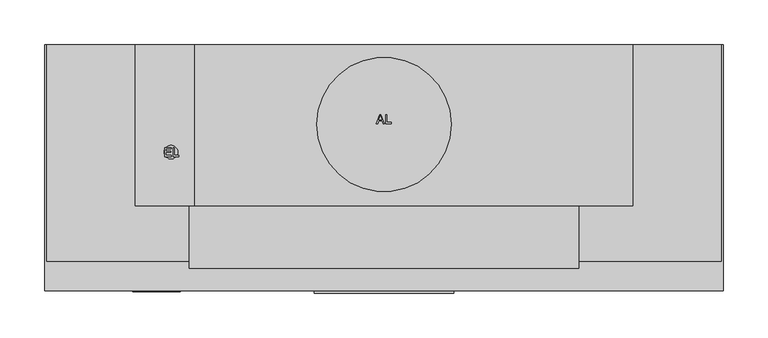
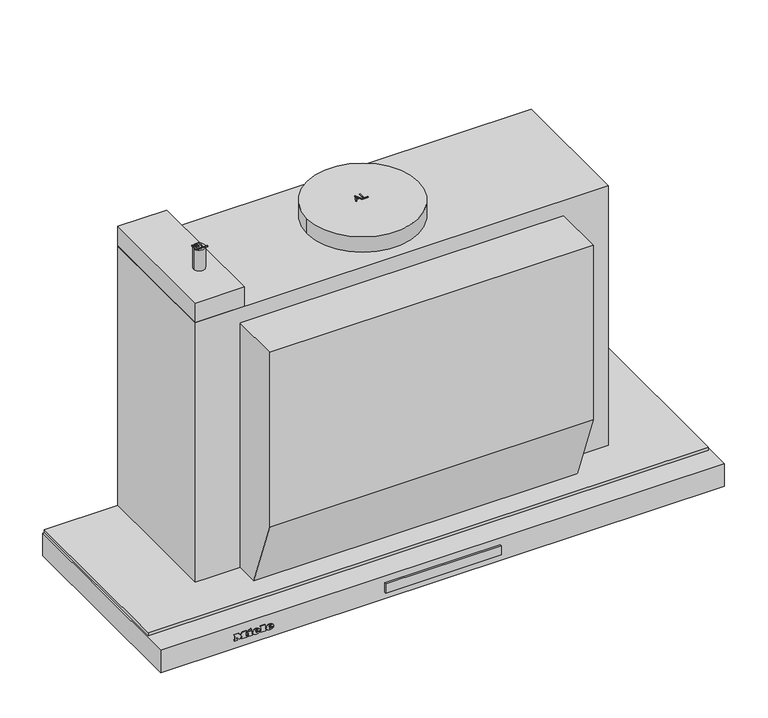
"""IFC4 building model written with IfcOpenShell, lengths in millimetres: proxy geometry, 11878520_USA_DAS4720_EDST : 28S4720S_USA_11878520_DAS4720_EDST."""

from ifc_helpers import new_model, si_unit, point, frame, frame_2d, origin, origin_with_axes, place, context, project, spatial, polyline, circle_curve, ellipse_curve, trimmed, segment, composite_curve, outline, extrude, faceted_brep, source, transform, mapped, element, save
from ifc_brep_helpers import plane_surface, cylinder_surface, revolved_surface, extruded_surface, advanced_brep


def specialty_equipment_fe7119d6(model_context):
    return source(origin(), model_context, "Body", "SolidModel", [
        extrude(outline(polyline([(78.0, -275.0), (78.0, -277.3978707), (-78.0, -277.3978707), (-78.0, -275.0), (78.0, -275.0)])), frame((0.0, 0.0, -23.0389651), z_axis=(0.0, 0.0, 1.0), x_axis=(1.0, 0.0, 0.0)), (0.0, 0.0, 1.0), 13.3389155),
        advanced_brep(
        [(-233.4590019, -276.0, -18.7681017), (-233.4590019, -276.0, -17.8894017), (-227.6387019, -276.0, -17.8894017), (-237.7655019, -276.0, -17.8894017), (-235.3730019, -276.0, -20.8300017), (-227.7866019, -276.0, -18.7681017), (-230.4140019, -276.0, -18.7681017), (-232.4846019, -276.0, -19.7425017), (-233.4590019, -276.0, -16.7758017), (-233.4590019, -276.0, -15.8275017), (-231.9713019, -276.0, -15.8275017), (-231.9713019, -276.0, -16.7758017), (-233.4590019, -275.0, -18.7681017), (-232.4846019, -275.0, -19.7425017), (-230.4140019, -275.0, -18.7681017), (-227.7866019, -275.0, -18.7681017), (-235.3730019, -275.0, -20.8300017), (-237.7655019, -275.0, -17.8894017), (-227.6387019, -275.0, -17.8894017), (-233.4590019, -275.0, -17.8894017), (-233.4590019, -275.0, -16.7758017), (-231.9713019, -275.0, -16.7758017), (-231.9713019, -275.0, -15.8275017), (-233.4590019, -275.0, -15.8275017)],
        [
            (0, 1),
            (1, 2),
            (2, 3, ellipse_curve(frame((-232.7021019, -276.0, -17.8894017), z_axis=(0.0, -1.0, 0.0), x_axis=(-1.0, 0.0, 0.0)), 5.0634, 4.1847)),
            (3, 4, circle_curve(frame((-234.3985544, -276.0, -17.5936017), z_axis=(0.0, -1.0, 0.0), x_axis=(0.0, 0.0, -1.0)), 3.3799161)),
            (4, 5, circle_curve(frame((-232.8034638, -276.0, -15.2968017), z_axis=(0.0, -1.0, 0.0), x_axis=(0.0, 0.0, -1.0)), 6.1007236)),
            (5, 6),
            (6, 7, circle_curve(frame((-232.0593254, -276.0, -17.9590017), z_axis=(0.0, 1.0, 0.0), x_axis=(0.0, 0.0, -1.0)), 1.8335027)),
            (7, 0, circle_curve(frame((-232.4846019, -276.0, -18.7681017), z_axis=(0.0, 1.0, 0.0), x_axis=(0.0, 0.0, -1.0)), 0.9744)),
            (8, 9),
            (9, 10, circle_curve(frame((-232.7151519, -276.0, -15.8275017), z_axis=(0.0, 1.0, 0.0), x_axis=(0.0, 0.0, -1.0)), 0.74385)),
            (10, 11),
            (11, 8),
            (12, 13, circle_curve(frame((-232.4846019, -275.0, -18.7681017), z_axis=(0.0, -1.0, 0.0), x_axis=(0.0, 0.0, -1.0)), 0.9744)),
            (13, 14, circle_curve(frame((-232.0593254, -275.0, -17.9590017), z_axis=(0.0, -1.0, 0.0), x_axis=(0.0, 0.0, -1.0)), 1.8335027)),
            (14, 15),
            (15, 16, circle_curve(frame((-232.8034638, -275.0, -15.2968017), z_axis=(0.0, 1.0, 0.0), x_axis=(0.0, 0.0, -1.0)), 6.1007236)),
            (16, 17, circle_curve(frame((-234.3985544, -275.0, -17.5936017), z_axis=(0.0, 1.0, 0.0), x_axis=(0.0, 0.0, -1.0)), 3.3799161)),
            (17, 18, ellipse_curve(frame((-232.7021019, -275.0, -17.8894017), z_axis=(0.0, 1.0, 0.0), x_axis=(-1.0, 0.0, 0.0)), 5.0634, 4.1847)),
            (18, 19),
            (19, 12),
            (20, 21),
            (21, 22),
            (22, 23, circle_curve(frame((-232.7151519, -275.0, -15.8275017), z_axis=(0.0, -1.0, 0.0), x_axis=(0.0, 0.0, -1.0)), 0.74385)),
            (23, 20),
            (0, 12),
            (19, 1),
            (18, 2),
            (5, 15),
            (14, 6),
            (17, 3),
            (13, 7),
            (16, 4),
            (8, 20),
            (23, 9),
            (22, 10),
            (21, 11),
        ],
        [
            plane_surface(frame((-233.4590019, -276.0, -17.8894017), z_axis=(0.0, -1.0, 0.0), x_axis=(0.0, 0.0, 1.0))),
            plane_surface(frame((-233.4590019, -275.0, -17.8894017), z_axis=(0.0, 1.0, 0.0), x_axis=(0.0, 0.0, -1.0))),
            plane_surface(frame((-233.4590019, -276.0, -18.7681017), z_axis=(1.0, 0.0, 0.0), x_axis=(0.0, 1.0, 0.0))),
            plane_surface(frame((-233.4590019, -276.0, -17.8894017), z_axis=(0.0, 0.0, -1.0), x_axis=(0.0, 1.0, 0.0))),
            plane_surface(frame((-227.7866019, -276.0, -18.7681017), z_axis=(0.0, 0.0, 1.0), x_axis=(0.0, 1.0, 0.0))),
            extruded_surface(trimmed(ellipse_curve(frame((-232.7021019, -274.0, -17.8894017), z_axis=(0.0, -1.0, 0.0), x_axis=(-1.0, 0.0, 0.0)), 5.0634, 4.1847), [point((-227.6387019, -274.0, -17.8894017))], [point((-237.7655019, -274.0, -17.8894017))], True, "CARTESIAN"), (0.0, -1.0, 0.0), 1.0),
            revolved_surface(polyline([(-232.0593254, -275.0, -19.792504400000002), (-232.0593254, -276.0, -19.792504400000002)]), (-232.0593254, -275.0, -17.9590017), (0.0, 1.0, 0.0)),
            revolved_surface(polyline([(-232.4846019, -275.0, -19.7425017), (-232.4846019, -276.0, -19.7425017)]), (-232.4846019, -275.0, -18.7681017), (0.0, 1.0, 0.0)),
            cylinder_surface(frame((-234.3985544, -275.0, -17.5936017), z_axis=(0.0, -1.0, 0.0), x_axis=(0.0, 0.0, -1.0)), 3.3799161),
            cylinder_surface(frame((-232.8034638, -275.0, -15.2968017), z_axis=(0.0, -1.0, 0.0), x_axis=(0.0, 0.0, -1.0)), 6.1007236),
            plane_surface(frame((-233.4590019, -276.0, -16.7758017), z_axis=(1.0, 0.0, 0.0), x_axis=(0.0, 1.0, 0.0))),
            revolved_surface(polyline([(-232.7151519, -275.0, -16.571351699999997), (-232.7151519, -276.0, -16.571351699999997)]), (-232.7151519, -275.0, -15.8275017), (0.0, 1.0, 0.0)),
            plane_surface(frame((-231.9713019, -276.0, -15.8275017), z_axis=(-1.0, 0.0, 0.0), x_axis=(0.0, 1.0, 0.0))),
            plane_surface(frame((-231.9713019, -276.0, -16.7758017), z_axis=(0.0, 0.0, 1.0), x_axis=(0.0, 1.0, 0.0))),
        ],
        [
            (0, [[1, 2, 3, 4, 5, 6, 7, 8], [9, 10, 11, 12]]),
            (1, [[13, 14, 15, 16, 17, 18, 19, 20], [21, 22, 23, 24]]),
            (2, [[-1, 25, -20, 26]]),
            (3, [[-2, -26, -19, 27]]),
            (4, [[-6, 28, -15, 29]]),
            (5, [[-3, -27, -18, 30]]),
            (6, [[-7, -29, -14, 31]]),
            (7, [[-8, -31, -13, -25]]),
            (8, [[-4, -30, -17, 32]]),
            (9, [[-5, -32, -16, -28]]),
            (10, [[-9, 33, -24, 34]]),
            (11, [[-10, -34, -23, 35]]),
            (12, [[-11, -35, -22, 36]]),
            (13, [[-12, -36, -21, -33]]),
        ],
    ),
        advanced_brep(
        [(-251.6159019, -276.0, -18.7681017), (-251.6159019, -276.0, -17.8894017), (-245.7956019, -276.0, -17.8894017), (-255.9224019, -276.0, -17.8894017), (-253.5299019, -276.0, -20.8300017), (-245.9435019, -276.0, -18.7681017), (-248.5709019, -276.0, -18.7681017), (-250.6415019, -276.0, -19.7425017), (-251.6159019, -276.0, -16.7758017), (-251.6159019, -276.0, -15.8275017), (-250.1282019, -276.0, -15.8275017), (-250.1282019, -276.0, -16.7758017), (-251.6159019, -275.0, -18.7681017), (-250.6415019, -275.0, -19.7425017), (-248.5709019, -275.0, -18.7681017), (-245.9435019, -275.0, -18.7681017), (-253.5299019, -275.0, -20.8300017), (-255.9224019, -275.0, -17.8894017), (-245.7956019, -275.0, -17.8894017), (-251.6159019, -275.0, -17.8894017), (-251.6159019, -275.0, -16.7758017), (-250.1282019, -275.0, -16.7758017), (-250.1282019, -275.0, -15.8275017), (-251.6159019, -275.0, -15.8275017)],
        [
            (0, 1),
            (1, 2),
            (2, 3, ellipse_curve(frame((-250.8590019, -276.0, -17.8894017), z_axis=(0.0, -1.0, 0.0), x_axis=(-1.0, 0.0, 0.0)), 5.0634, 4.1847)),
            (3, 4, circle_curve(frame((-252.5554544, -276.0, -17.5936017), z_axis=(0.0, -1.0, 0.0), x_axis=(0.0, 0.0, -1.0)), 3.3799161)),
            (4, 5, circle_curve(frame((-250.9603638, -276.0, -15.2968017), z_axis=(0.0, -1.0, 0.0), x_axis=(0.0, 0.0, -1.0)), 6.1007236)),
            (5, 6),
            (6, 7, circle_curve(frame((-250.2162254, -276.0, -17.9590017), z_axis=(0.0, 1.0, 0.0), x_axis=(0.0, 0.0, -1.0)), 1.8335027)),
            (7, 0, circle_curve(frame((-250.6415019, -276.0, -18.7681017), z_axis=(0.0, 1.0, 0.0), x_axis=(0.0, 0.0, -1.0)), 0.9744)),
            (8, 9),
            (9, 10, circle_curve(frame((-250.8720519, -276.0, -15.8275017), z_axis=(0.0, 1.0, 0.0), x_axis=(0.0, 0.0, -1.0)), 0.74385)),
            (10, 11),
            (11, 8),
            (12, 13, circle_curve(frame((-250.6415019, -275.0, -18.7681017), z_axis=(0.0, -1.0, 0.0), x_axis=(0.0, 0.0, -1.0)), 0.9744)),
            (13, 14, circle_curve(frame((-250.2162254, -275.0, -17.9590017), z_axis=(0.0, -1.0, 0.0), x_axis=(0.0, 0.0, -1.0)), 1.8335027)),
            (14, 15),
            (15, 16, circle_curve(frame((-250.9603638, -275.0, -15.2968017), z_axis=(0.0, 1.0, 0.0), x_axis=(0.0, 0.0, -1.0)), 6.1007236)),
            (16, 17, circle_curve(frame((-252.5554544, -275.0, -17.5936017), z_axis=(0.0, 1.0, 0.0), x_axis=(0.0, 0.0, -1.0)), 3.3799161)),
            (17, 18, ellipse_curve(frame((-250.8590019, -275.0, -17.8894017), z_axis=(0.0, 1.0, 0.0), x_axis=(-1.0, 0.0, 0.0)), 5.0634, 4.1847)),
            (18, 19),
            (19, 12),
            (20, 21),
            (21, 22),
            (22, 23, circle_curve(frame((-250.8720519, -275.0, -15.8275017), z_axis=(0.0, -1.0, 0.0), x_axis=(0.0, 0.0, -1.0)), 0.74385)),
            (23, 20),
            (0, 12),
            (19, 1),
            (18, 2),
            (5, 15),
            (14, 6),
            (17, 3),
            (13, 7),
            (16, 4),
            (8, 20),
            (23, 9),
            (22, 10),
            (21, 11),
        ],
        [
            plane_surface(frame((-251.6159019, -276.0, -17.8894017), z_axis=(0.0, -1.0, 0.0), x_axis=(0.0, 0.0, 1.0))),
            plane_surface(frame((-251.6159019, -275.0, -17.8894017), z_axis=(0.0, 1.0, 0.0), x_axis=(0.0, 0.0, -1.0))),
            plane_surface(frame((-251.6159019, -276.0, -18.7681017), z_axis=(1.0, 0.0, 0.0), x_axis=(0.0, 1.0, 0.0))),
            plane_surface(frame((-251.6159019, -276.0, -17.8894017), z_axis=(0.0, 0.0, -1.0), x_axis=(0.0, 1.0, 0.0))),
            plane_surface(frame((-245.9435019, -276.0, -18.7681017), z_axis=(0.0, 0.0, 1.0), x_axis=(0.0, 1.0, 0.0))),
            extruded_surface(trimmed(ellipse_curve(frame((-250.8590019, -274.0, -17.8894017), z_axis=(0.0, -1.0, 0.0), x_axis=(-1.0, 0.0, 0.0)), 5.0634, 4.1847), [point((-245.7956019, -274.0, -17.8894017))], [point((-255.9224019, -274.0, -17.8894017))], True, "CARTESIAN"), (0.0, -1.0, 0.0), 1.0),
            revolved_surface(polyline([(-250.2162254, -275.0, -19.792504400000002), (-250.2162254, -276.0, -19.792504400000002)]), (-250.2162254, -275.0, -17.9590017), (0.0, 1.0, 0.0)),
            revolved_surface(polyline([(-250.6415019, -275.0, -19.7425017), (-250.6415019, -276.0, -19.7425017)]), (-250.6415019, -275.0, -18.7681017), (0.0, 1.0, 0.0)),
            cylinder_surface(frame((-252.5554544, -275.0, -17.5936017), z_axis=(0.0, -1.0, 0.0), x_axis=(0.0, 0.0, -1.0)), 3.3799161),
            cylinder_surface(frame((-250.9603638, -275.0, -15.2968017), z_axis=(0.0, -1.0, 0.0), x_axis=(0.0, 0.0, -1.0)), 6.1007236),
            plane_surface(frame((-251.6159019, -276.0, -16.7758017), z_axis=(1.0, 0.0, 0.0), x_axis=(0.0, 1.0, 0.0))),
            revolved_surface(polyline([(-250.8720519, -275.0, -16.571351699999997), (-250.8720519, -276.0, -16.571351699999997)]), (-250.8720519, -275.0, -15.8275017), (0.0, 1.0, 0.0)),
            plane_surface(frame((-250.1282019, -276.0, -15.8275017), z_axis=(-1.0, 0.0, 0.0), x_axis=(0.0, 1.0, 0.0))),
            plane_surface(frame((-250.1282019, -276.0, -16.7758017), z_axis=(0.0, 0.0, 1.0), x_axis=(0.0, 1.0, 0.0))),
        ],
        [
            (0, [[1, 2, 3, 4, 5, 6, 7, 8], [9, 10, 11, 12]]),
            (1, [[13, 14, 15, 16, 17, 18, 19, 20], [21, 22, 23, 24]]),
            (2, [[-1, 25, -20, 26]]),
            (3, [[-2, -26, -19, 27]]),
            (4, [[-6, 28, -15, 29]]),
            (5, [[-3, -27, -18, 30]]),
            (6, [[-7, -29, -14, 31]]),
            (7, [[-8, -31, -13, -25]]),
            (8, [[-4, -30, -17, 32]]),
            (9, [[-5, -32, -16, -28]]),
            (10, [[-9, 33, -24, 34]]),
            (11, [[-10, -34, -23, 35]]),
            (12, [[-11, -35, -22, 36]]),
            (13, [[-12, -36, -21, -33]]),
        ],
    ),
        extrude(outline(polyline([(-12.6433017, -261.1250019), (-14.0527017, -260.4638019), (-12.6781017, -257.5145019), (-11.2687017, -258.1670019), (-12.6433017, -261.1250019)])), frame((0.0, -276.0, 0.0), z_axis=(0.0, 1.0, 0.0), x_axis=(0.0, 0.0, 1.0)), (0.0, 0.0, 1.0), 1.0),
        extrude(outline(polyline([(-14.2441017, -263.2739019), (-15.8014017, -263.2739019), (-15.8014017, -262.2386019), (-19.3684017, -262.2386019), (-19.3684017, -263.2739019), (-20.8300017, -263.2739019), (-20.8300017, -256.4096019), (-19.3684017, -256.4096019), (-19.3684017, -257.4188019), (-14.2441017, -257.4188019), (-14.2441017, -263.2739019)])), frame((0.0, -276.0, 0.0), z_axis=(0.0, 1.0, 0.0), x_axis=(0.0, 0.0, 1.0)), (0.0, 0.0, 1.0), 1.0),
        extrude(outline(polyline([(-13.5481017, -245.3084019), (-13.5481017, -244.2644019), (-19.3684017, -244.2644019), (-19.3684017, -245.3084019), (-20.8300017, -245.3084019), (-20.8300017, -238.2527019), (-19.3684017, -238.2527019), (-19.3684017, -239.3228019), (-12.1300017, -239.3228019), (-12.1300017, -245.3084019), (-13.5481017, -245.3084019)])), frame((0.0, -276.0, 0.0), z_axis=(0.0, 1.0, 0.0), x_axis=(0.0, 0.0, 1.0)), (0.0, 0.0, 1.0), 1.0),
        extrude(outline(polyline([(-13.5481017, -280.6130019), (-13.5481017, -279.5603019), (-19.3684017, -279.5603019), (-19.3684017, -280.6130019), (-20.8300017, -280.6130019), (-20.8300017, -276.7850019), (-19.3684017, -276.7850019), (-19.3684017, -277.8290019), (-15.6719769, -277.8290019), (-20.8300017, -273.9401019), (-15.5772794, -270.0338019), (-19.3684017, -270.0338019), (-19.3684017, -271.1039019), (-20.8300017, -271.1039019), (-20.8300017, -264.1613019), (-19.3684017, -264.1613019), (-19.3684017, -265.2662019), (-13.5481017, -265.2662019), (-13.5481017, -264.1613019), (-12.1300017, -264.1613019), (-12.1300017, -269.4596019), (-15.3925017, -272.0000019), (-12.1300017, -274.5491019), (-12.1300017, -280.6130019), (-13.5481017, -280.6130019)])), frame((0.0, -276.0, 0.0), z_axis=(0.0, 1.0, 0.0), x_axis=(0.0, 0.0, 1.0)), (0.0, 0.0, 1.0), 1.0),
        extrude(outline(polyline([(278.0, -180.0), (-278.0, -180.0), (-278.0, 0.0), (278.0, 0.0), (278.0, -180.0)])), frame((0.0, 0.0, 4.0), z_axis=(0.0, 0.0, 1.0), x_axis=(1.0, 0.0, 0.0)), (0.0, 0.0, 1.0), 369.0),
        extrude(outline(composite_curve([segment(trimmed(circle_curve(frame_2d((0.0, -89.0)), 75.0), [point((-75.0, -89.0))], [point((75.0, -89.0))], False, "CARTESIAN"), True, "CONTINUOUS"), segment(trimmed(circle_curve(frame_2d((0.0, -89.0)), 75.0), [point((75.0, -89.0))], [point((-75.0, -89.0))], False, "CARTESIAN"), True, "CONTINUOUS")], self_intersect=False)), frame((0.0, 0.0, 373.0), z_axis=(0.0, 0.0, 1.0), x_axis=(1.0, 0.0, 0.0)), (0.0, 0.0, 1.0), 22.0),
        extrude(outline(polyline([(-278.0, -180.0), (-278.0, 0.0), (-212.0, 0.0), (-212.0, -180.0), (-278.0, -180.0)])), frame((0.0, 0.0, 373.0), z_axis=(0.0, 0.0, 1.0), x_axis=(1.0, 0.0, 0.0)), (0.0, 0.0, 1.0), 28.0),
        extrude(outline(polyline([(-180.0, 352.0), (-180.0, 4.0), (-211.7966838, 4.0), (-249.5, 103.2192532), (-249.5, 352.0), (-180.0, 352.0)])), frame((-217.7156244, 0.0, 0.0), z_axis=(1.0, 0.0, 0.0), x_axis=(0.0, 1.0, 0.0)), (0.0, 0.0, 1.0), 435.4312488),
        extrude(outline(polyline([(-8.5446725, -87.975609), (-4.5347587, -77.929978), (-3.4654484, -77.929978), (0.5420128, -87.975609), (-0.7848149, -87.975609), (-1.9326067, -84.8363493), (-6.0725055, -84.8363493), (-7.2202973, -87.975609), (-8.5446725, -87.975609)]), holes=[polyline([(-5.6114267, -83.5806455), (-2.391233, -83.5806455), (-3.2986752, -81.110931), (-4.0025561, -79.1856819), (-4.6279555, -80.8951069), (-5.6114267, -83.5806455)])]), frame((0.0, 0.0, 395.0), z_axis=(0.0, 0.0, 1.0), x_axis=(1.0, 0.0, 0.0)), (0.0, 0.0, 1.0), 1.0),
        extrude(outline(polyline([(1.8835558, -87.975609), (1.8835558, -77.929978), (3.1392597, -77.929978), (3.1392597, -86.7199052), (8.1620752, -86.7199052), (8.1620752, -87.975609), (1.8835558, -87.975609)])), frame((0.0, 0.0, 395.0), z_axis=(0.0, 0.0, 1.0), x_axis=(1.0, 0.0, 0.0)), (0.0, 0.0, 1.0), 1.0),
        extrude(outline(polyline([(377.0, 0.0), (377.0, -242.0), (-377.0, -242.0), (-377.0, 0.0), (377.0, 0.0)])), origin_with_axes(), (0.0, 0.0, 1.0), 4.0),
        extrude(outline(polyline([(120.0, -19.25), (120.0, -31.75), (-120.0, -31.75), (-120.0, -19.25), (120.0, -19.25)])), frame((0.0, 0.0, -23.0), z_axis=(0.0, 0.0, 1.0), x_axis=(1.0, 0.0, 0.0)), (0.0, 0.0, 1.0), 1.785426),
        extrude(outline(polyline([(262.0813184, -268.0), (262.0813184, -246.0), (330.0, -246.0), (330.0, -268.0), (262.0813184, -268.0)])), frame((0.0, 0.0, -33.3019181), z_axis=(0.0, 0.0, 1.0), x_axis=(1.0, 0.0, 0.0)), (0.0, 0.0, 1.0), 1.3019181),
        extrude(outline(polyline([(-330.0, -268.0), (-330.0, -246.0), (-262.0, -246.0), (-262.0, -268.0), (-330.0, -268.0)])), frame((0.0, 0.0, -33.3019181), z_axis=(0.0, 0.0, 1.0), x_axis=(1.0, 0.0, 0.0)), (0.0, 0.0, 1.0), 1.3019181),
        extrude(outline(composite_curve([segment(trimmed(circle_curve(frame_2d((-238.0, -120.0)), 7.5), [point((-230.5, -120.0))], [point((-245.5, -120.0))], False, "CARTESIAN"), True, "CONTINUOUS"), segment(trimmed(circle_curve(frame_2d((-238.0, -120.0)), 7.5), [point((-245.5, -120.0))], [point((-230.5, -120.0))], False, "CARTESIAN"), True, "CONTINUOUS")], self_intersect=False)), frame((0.0, 0.0, 401.0), z_axis=(0.0, 0.0, 1.0), x_axis=(1.0, 0.0, 0.0)), (0.0, 0.0, 1.0), 30.0),
        extrude(outline(polyline([(-235.640443, -124.9184735), (-235.640443, -114.8728425), (-234.3847391, -114.8728425), (-234.3847391, -123.6627696), (-229.3619236, -123.6627696), (-229.3619236, -124.9184735), (-235.640443, -124.9184735)])), frame((0.0, 0.0, 431.0), z_axis=(0.0, 0.0, 1.0), x_axis=(1.0, 0.0, 0.0)), (0.0, 0.0, 1.0), 1.0),
        extrude(outline(polyline([(-244.9012591, -124.9184735), (-244.9012591, -114.8728425), (-237.6809618, -114.8728425), (-237.6809618, -116.1285464), (-243.6455552, -116.1285464), (-243.6455552, -119.1108431), (-237.9948878, -119.1108431), (-237.9948878, -120.366547), (-243.6455552, -120.366547), (-243.6455552, -123.6627696), (-237.5239988, -123.6627696), (-237.5239988, -124.9184735), (-244.9012591, -124.9184735)])), frame((0.0, 0.0, 431.0), z_axis=(0.0, 0.0, 1.0), x_axis=(1.0, 0.0, 0.0)), (0.0, 0.0, 1.0), 1.0),
        extrude(outline(polyline([(-379.0, 0.0), (-344.0, 0.0), (-344.0, -242.0), (344.0, -242.0), (344.0, 0.0), (379.0, 0.0), (379.0, -275.0), (-379.0, -275.0), (-379.0, 0.0)])), frame((0.0, 0.0, -32.0), z_axis=(0.0, 0.0, 1.0), x_axis=(1.0, 0.0, 0.0)), (0.0, 0.0, 1.0), 32.0),
        faceted_brep([(-126.0, -39.0, -24.0), (-126.0, -39.0, 0.0), (126.0, -39.0, 0.0), (126.0, -39.0, -24.0), (-126.0, -12.0, -24.0), (-126.0, -12.0, 0.0), (126.0, -12.0, -24.0), (126.0, -12.0, 0.0), (-344.0, -242.0, 0.0), (-344.0, 0.0, 0.0), (-344.0, 0.0, -24.0), (-344.0, -52.0, -24.0), (-344.0, -52.0, -25.0), (-344.0, -242.0, -25.0), (344.0, -52.0, -25.0), (344.0, -242.0, -25.0), (344.0, -52.0, -24.0), (344.0, 0.0, -24.0), (344.0, 0.0, 0.0), (344.0, -242.0, 0.0)], [[[0, 1, 2, 3]], [[4, 5, 1, 0]], [[6, 7, 5, 4]], [[8, 9, 10, 11, 12, 13]], [[13, 12, 14, 15]], [[16, 11, 10, 17], [6, 4, 0, 3]], [[11, 16, 14, 12]], [[18, 9, 8, 19], [5, 7, 2, 1]], [[9, 18, 17, 10]], [[19, 8, 13, 15]], [[18, 19, 15, 14, 16, 17]], [[7, 6, 3, 2]]]),
        extrude(outline(polyline([(126.0, -12.0), (126.0, -39.0), (-126.0, -39.0), (-126.0, -12.0), (126.0, -12.0)]), holes=[polyline([(120.0, -19.25), (-120.0, -19.25), (-120.0, -31.75), (120.0, -31.75), (120.0, -19.25)])]), frame((0.0, 0.0, -21.214574), z_axis=(0.0, 0.0, 1.0), x_axis=(1.0, 0.0, 0.0)), (0.0, 0.0, 1.0), 21.214574),
    ])


if __name__ == "__main__":
    model = new_model("IFC4")
    model_context = context("Model", 3, world=origin())
    ifc_project = project(units=[si_unit("LENGTHUNIT", "METRE", prefix="MILLI")], contexts=[model_context])
    site = spatial("IfcSite", under=ifc_project)
    building = spatial("IfcBuilding", under=site)
    placement = place(None, origin())
    specialty_equipment_shape = specialty_equipment_fe7119d6(model_context)
    element("IfcBuildingElementProxy", 1, Name="11878520_USA_DAS4720_EDST : 28S4720S_USA_11878520_DAS4720_EDST", ObjectType="11878520_USA_DAS4720_EDST : 28S4720S_USA_11878520_DAS4720_EDST", at=placement, inside=building, context=model_context, shape_type="MappedRepresentation", body=[
        mapped(specialty_equipment_shape, transform((0.0, 0.0, 0.0), x_axis=(1.0, 0.0, 0.0), y_axis=(0.0, 1.0, 0.0), z_axis=(0.0, 0.0, 1.0))),
    ])
    save(model, "model.ifc")
